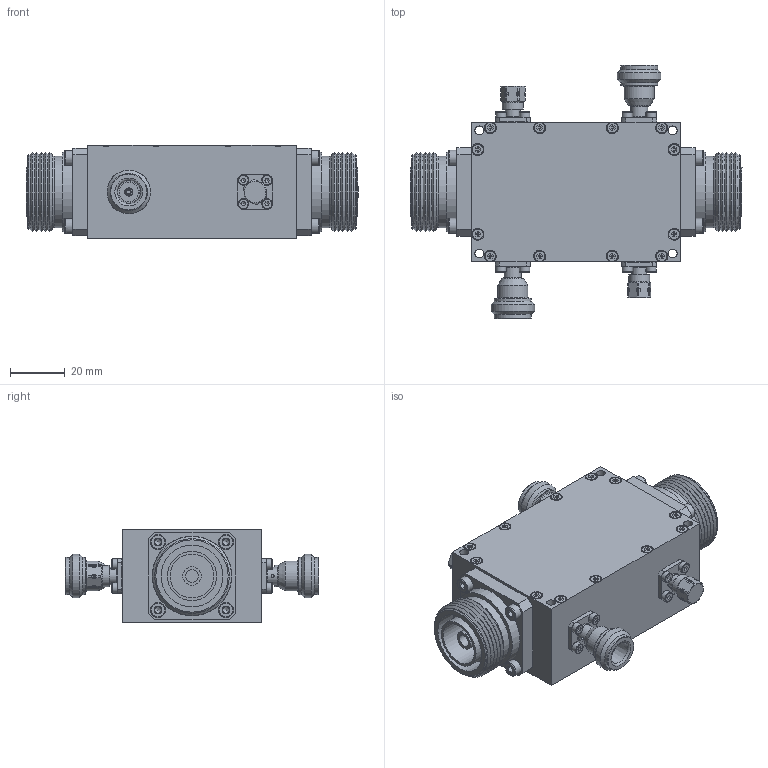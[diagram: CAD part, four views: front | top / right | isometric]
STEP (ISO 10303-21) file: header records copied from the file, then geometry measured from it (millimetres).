
FILE_DESCRIPTION(/* description */ ('Unknown'),/* implementation_level */ '2;1');
FILE_NAME(/* name */ 'DETI_MICROWAVE_HIGH_POWER_DUAL_DIRECTIONAL_COUPLER_011100_STEP',/* time_stamp */ '2021-06-11T14:28:08+02:00',/* author */ ('ALG'),/* organization */ ('DETI'),/* preprocessor_version */ 'ST-DEVELOPER v16.7',/* originating_system */ 'Solid Edge',/* authorisation */ 'Unknown');
FILE_SCHEMA (('AUTOMOTIVE_DESIGN {1 0 10303 214 3 1 1}'));
Length unit declared in the file: millimetre
Products named in the file (1): CD-2-1200-1400-50-50-1000-716F-716F-NF2
Bounding box: 120.8 x 92.2 x 34 mm (x, y, z)
Volume: 155889.1 mm3; surface area: 40435.3 mm2
Topology: 1 solids, 75 shells, 1582 faces, 4102 edges, 2710 vertices
Faces by surface type: plane 870, cone 330, cylinder 304, torus 78
Full cylindrical faces by diameter (mm): 0.93 x2, 0.98 x2, 1 x4, 1.26 x2, 1.275 x2, 1.567 x28, 2 x28, 2.2 x12, 2.459 x8, 2.6 x8, 2.9 x8, 3 x10, 3.2 x4, 3.5 x8, 3.8 x28, 4.06 x2, 4.08 x2, 4.1 x2, 4.14 x2, 4.56 x2, 4.6 x2, 4.64 x2, 5.35 x4, 5.5 x8, 6.225 x2, 6.3 x2, 6.425 x2, 6.6 x2, 6.7 x2, 7 x2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
Entity records: 54904 total; most frequent: CARTESIAN_POINT 9073, DIRECTION 6894, ORIENTED_EDGE 6648, EDGE_CURVE 3324, AXIS2_PLACEMENT_3D 2515, VERTEX_POINT 2458, FACE_BOUND 2240, EDGE_LOOP 2178
